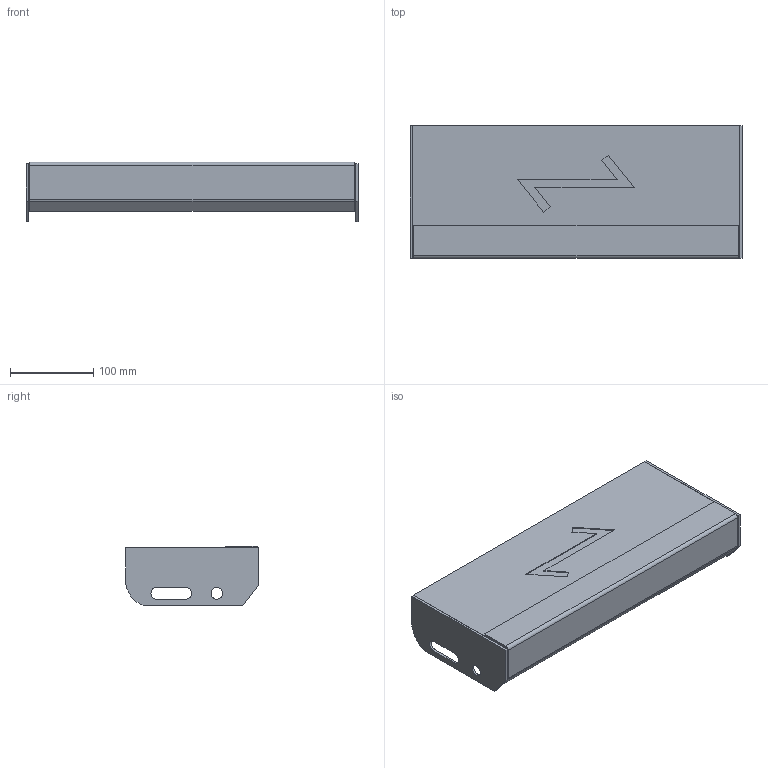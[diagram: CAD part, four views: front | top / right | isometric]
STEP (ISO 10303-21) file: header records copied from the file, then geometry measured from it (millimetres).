
FILE_DESCRIPTION (( 'STEP AP203' ), '1' );
FILE_NAME ('StegTH6-S-nya_steget-400x160.STEP', '2020-03-04T07:40:45', ( '' ), ( '' ), 'SwSTEP 2.0', 'SolidWorks 2019', '' );
FILE_SCHEMA (( 'CONFIG_CONTROL_DESIGN' ));
Length unit declared in the file: millimetre
Products named in the file (5): SW0000039323; SW0000039221; SW0000038696; SW0000038759; StegTH6-S-nya_steget-400x160
Assembly tree (5 placements, depth 3):
  StegTH6-S-nya_steget-400x160
    SW0000039323
      SW0000038759
      SW0000039221
      SW0000038696  x2
Bounding box: 400 x 160 x 72 mm (x, y, z)
Volume: 1237952.9 mm3; surface area: 254409.3 mm2
Topology: 4 solids, 4 shells, 67 faces, 158 edges, 100 vertices
Faces by surface type: plane 51, cylinder 16
Entity records: 2002 total; most frequent: DIRECTION 261, CARTESIAN_POINT 254, ORIENTED_EDGE 238, EDGE_CURVE 119, VECTOR 99, LINE 99, AXIS2_PLACEMENT_3D 81, VERTEX_POINT 74
